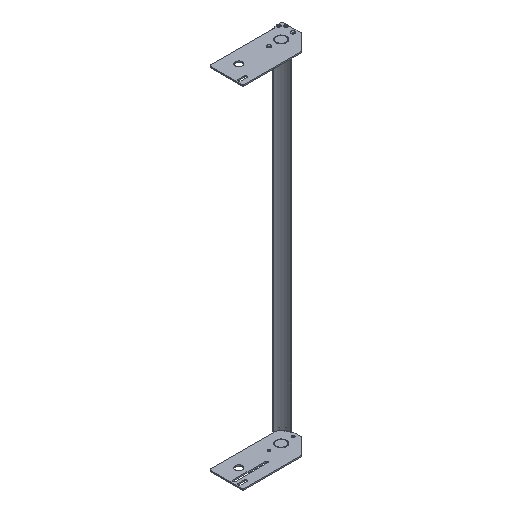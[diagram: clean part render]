
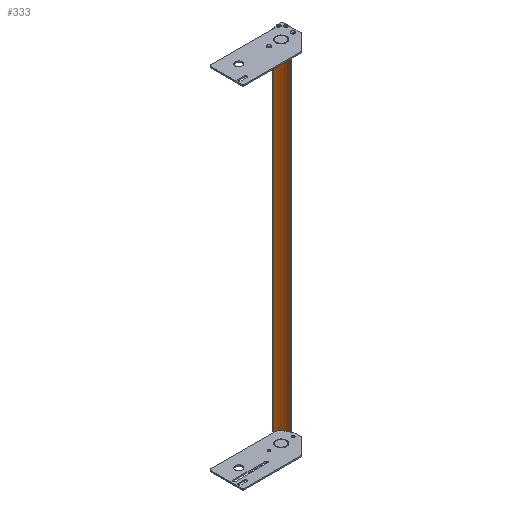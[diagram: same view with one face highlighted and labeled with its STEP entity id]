
A CAD part, isometric view. The second image highlights one B-rep face of the part: STEP entity #333.
In plain terms, the highlighted cylindrical face has radius 40.64 mm (diameter 81.28 mm), a partial arc.
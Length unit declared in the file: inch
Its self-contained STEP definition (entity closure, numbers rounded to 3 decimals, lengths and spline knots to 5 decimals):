
#40=CARTESIAN_POINT('',(-1.52,1.63,-18.118));
#41=DIRECTION('',(0.,0.,-1.));
#42=DIRECTION('',(0.914,-0.405,0.));
#43=AXIS2_PLACEMENT_3D('',#40,#41,#42);
#87=CARTESIAN_POINT('',(-1.52,1.63,18.118));
#88=DIRECTION('',(0.,0.,-1.));
#89=DIRECTION('',(0.914,-0.405,0.));
#90=AXIS2_PLACEMENT_3D('',#87,#88,#89);
#118=DIRECTION('',(0.,0.,1.));
#119=VECTOR('',#118,36.236);
#120=CARTESIAN_POINT('',(-1.00032,0.11675,-18.118));
#121=LINE('',#120,#119);
#122=DIRECTION('',(0.,0.,1.));
#123=VECTOR('',#122,36.236);
#124=CARTESIAN_POINT('',(-0.05742,0.98126,-18.118));
#125=LINE('',#124,#123);
#154=CARTESIAN_POINT('',(-0.05742,0.98126,-18.118));
#155=VERTEX_POINT('',#154);
#156=CARTESIAN_POINT('',(-1.00032,0.11675,-18.118));
#157=VERTEX_POINT('',#156);
#174=CARTESIAN_POINT('',(-0.05742,0.98126,18.118));
#175=VERTEX_POINT('',#174);
#176=CARTESIAN_POINT('',(-1.00032,0.11675,18.118));
#177=VERTEX_POINT('',#176);
#321=CARTESIAN_POINT('',(-1.52,1.63,-18.118));
#322=DIRECTION('',(0.,0.,1.));
#323=DIRECTION('',(1.,0.,0.));
#324=AXIS2_PLACEMENT_3D('',#321,#322,#323);
#325=CYLINDRICAL_SURFACE('',#324,1.6);
#326=ORIENTED_EDGE('',*,*,#191,.F.);
#328=ORIENTED_EDGE('',*,*,#327,.T.);
#329=ORIENTED_EDGE('',*,*,#247,.T.);
#330=ORIENTED_EDGE('',*,*,#314,.F.);
#331=EDGE_LOOP('',(#326,#328,#329,#330));
#332=FACE_OUTER_BOUND('',#331,.F.);
#44=CIRCLE('',#43,1.6);
#91=CIRCLE('',#90,1.6);
#191=EDGE_CURVE('',#155,#157,#44,.T.);
#247=EDGE_CURVE('',#175,#177,#91,.T.);
#314=EDGE_CURVE('',#157,#177,#121,.T.);
#327=EDGE_CURVE('',#155,#175,#125,.T.);
#333=ADVANCED_FACE('',(#332),#325,.F.);
